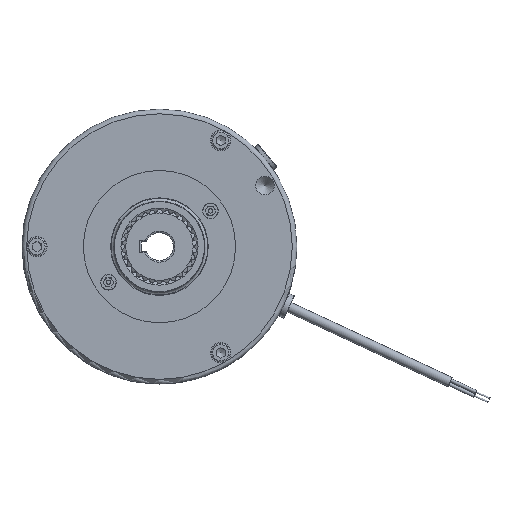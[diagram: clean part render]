
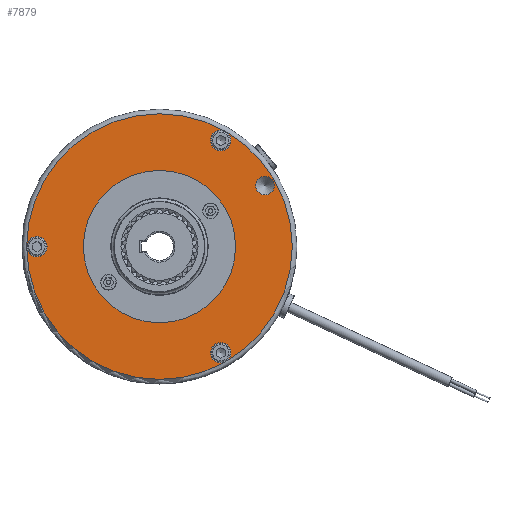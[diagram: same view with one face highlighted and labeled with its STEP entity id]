
A CAD part, left-side view. The second image highlights one B-rep face of the part: STEP entity #7879.
In plain terms, the highlighted planar face has unit normal (-1, 0, 0).
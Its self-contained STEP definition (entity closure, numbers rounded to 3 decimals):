
#150=PLANE('',#8464);
#213=FACE_BOUND('',#801,.T.);
#214=FACE_BOUND('',#802,.T.);
#215=FACE_BOUND('',#803,.T.);
#216=FACE_BOUND('',#804,.T.);
#217=FACE_BOUND('',#805,.T.);
#350=FACE_OUTER_BOUND('',#800,.T.);
#800=EDGE_LOOP('',(#5213,#5214));
#801=EDGE_LOOP('',(#5215,#5216));
#802=EDGE_LOOP('',(#5217,#5218));
#803=EDGE_LOOP('',(#5219,#5220));
#804=EDGE_LOOP('',(#5221,#5222));
#805=EDGE_LOOP('',(#5223,#5224));
#1515=CIRCLE('',#8417,5.);
#1516=CIRCLE('',#8418,5.);
#1545=CIRCLE('',#8461,71.501);
#1546=CIRCLE('',#8462,71.501);
#1547=CIRCLE('',#8465,41.);
#1548=CIRCLE('',#8466,41.);
#1549=CIRCLE('',#8467,5.5);
#1550=CIRCLE('',#8468,5.5);
#1551=CIRCLE('',#8469,5.5);
#1552=CIRCLE('',#8470,5.5);
#1553=CIRCLE('',#8471,5.5);
#1554=CIRCLE('',#8472,5.5);
#2868=VERTEX_POINT('',#12126);
#2869=VERTEX_POINT('',#12127);
#2890=VERTEX_POINT('',#12198);
#2891=VERTEX_POINT('',#12200);
#2892=VERTEX_POINT('',#12205);
#2893=VERTEX_POINT('',#12206);
#2894=VERTEX_POINT('',#12209);
#2895=VERTEX_POINT('',#12210);
#2896=VERTEX_POINT('',#12213);
#2897=VERTEX_POINT('',#12214);
#2898=VERTEX_POINT('',#12217);
#2899=VERTEX_POINT('',#12218);
#3739=EDGE_CURVE('',#2868,#2869,#1515,.T.);
#3740=EDGE_CURVE('',#2869,#2868,#1516,.T.);
#3776=EDGE_CURVE('',#2890,#2891,#1545,.T.);
#3777=EDGE_CURVE('',#2891,#2890,#1546,.T.);
#3778=EDGE_CURVE('',#2892,#2893,#1547,.T.);
#3779=EDGE_CURVE('',#2893,#2892,#1548,.T.);
#3780=EDGE_CURVE('',#2894,#2895,#1549,.T.);
#3781=EDGE_CURVE('',#2895,#2894,#1550,.T.);
#3782=EDGE_CURVE('',#2896,#2897,#1551,.T.);
#3783=EDGE_CURVE('',#2897,#2896,#1552,.T.);
#3784=EDGE_CURVE('',#2898,#2899,#1553,.T.);
#3785=EDGE_CURVE('',#2899,#2898,#1554,.T.);
#5213=ORIENTED_EDGE('',*,*,#3777,.F.);
#5214=ORIENTED_EDGE('',*,*,#3776,.F.);
#5215=ORIENTED_EDGE('',*,*,#3739,.T.);
#5216=ORIENTED_EDGE('',*,*,#3740,.T.);
#5217=ORIENTED_EDGE('',*,*,#3778,.T.);
#5218=ORIENTED_EDGE('',*,*,#3779,.T.);
#5219=ORIENTED_EDGE('',*,*,#3780,.T.);
#5220=ORIENTED_EDGE('',*,*,#3781,.T.);
#5221=ORIENTED_EDGE('',*,*,#3782,.T.);
#5222=ORIENTED_EDGE('',*,*,#3783,.T.);
#5223=ORIENTED_EDGE('',*,*,#3784,.T.);
#5224=ORIENTED_EDGE('',*,*,#3785,.T.);
#7879=ADVANCED_FACE('',(#350,#213,#214,#215,#216,#217),#150,.T.);
#8417=AXIS2_PLACEMENT_3D('',#12128,#9618,#9619);
#8418=AXIS2_PLACEMENT_3D('',#12129,#9620,#9621);
#8461=AXIS2_PLACEMENT_3D('',#12201,#9713,#9714);
#8462=AXIS2_PLACEMENT_3D('',#12202,#9715,#9716);
#8464=AXIS2_PLACEMENT_3D('',#12204,#9719,#9720);
#8465=AXIS2_PLACEMENT_3D('',#12207,#9721,#9722);
#8466=AXIS2_PLACEMENT_3D('',#12208,#9723,#9724);
#8467=AXIS2_PLACEMENT_3D('',#12211,#9725,#9726);
#8468=AXIS2_PLACEMENT_3D('',#12212,#9727,#9728);
#8469=AXIS2_PLACEMENT_3D('',#12215,#9729,#9730);
#8470=AXIS2_PLACEMENT_3D('',#12216,#9731,#9732);
#8471=AXIS2_PLACEMENT_3D('',#12219,#9733,#9734);
#8472=AXIS2_PLACEMENT_3D('',#12220,#9735,#9736);
#9618=DIRECTION('center_axis',(1.,0.,0.));
#9619=DIRECTION('ref_axis',(0.,0.,1.));
#9620=DIRECTION('center_axis',(1.,0.,0.));
#9621=DIRECTION('ref_axis',(0.,0.,1.));
#9713=DIRECTION('center_axis',(1.,0.,0.));
#9714=DIRECTION('ref_axis',(0.,-1.,0.));
#9715=DIRECTION('center_axis',(1.,0.,0.));
#9716=DIRECTION('ref_axis',(0.,-1.,0.));
#9719=DIRECTION('center_axis',(-1.,0.,0.));
#9720=DIRECTION('ref_axis',(0.,0.,1.));
#9721=DIRECTION('center_axis',(1.,0.,0.));
#9722=DIRECTION('ref_axis',(0.,1.,0.));
#9723=DIRECTION('center_axis',(1.,0.,0.));
#9724=DIRECTION('ref_axis',(0.,1.,0.));
#9725=DIRECTION('center_axis',(1.,0.,0.));
#9726=DIRECTION('ref_axis',(0.,0.,1.));
#9727=DIRECTION('center_axis',(1.,0.,0.));
#9728=DIRECTION('ref_axis',(0.,0.,1.));
#9729=DIRECTION('center_axis',(1.,0.,0.));
#9730=DIRECTION('ref_axis',(0.,0.,1.));
#9731=DIRECTION('center_axis',(1.,0.,0.));
#9732=DIRECTION('ref_axis',(0.,0.,1.));
#9733=DIRECTION('center_axis',(1.,0.,0.));
#9734=DIRECTION('ref_axis',(0.,0.,1.));
#9735=DIRECTION('center_axis',(1.,0.,0.));
#9736=DIRECTION('ref_axis',(0.,0.,1.));
#12126=CARTESIAN_POINT('',(-56.9,-56.811,37.8));
#12127=CARTESIAN_POINT('',(-56.9,-56.811,27.8));
#12128=CARTESIAN_POINT('Origin',(-56.9,-56.811,32.8));
#12129=CARTESIAN_POINT('Origin',(-56.9,-56.811,32.8));
#12198=CARTESIAN_POINT('',(-56.9,0.,71.501));
#12200=CARTESIAN_POINT('',(-56.9,71.501,0.));
#12201=CARTESIAN_POINT('Origin',(-56.9,0.,0.));
#12202=CARTESIAN_POINT('Origin',(-56.9,0.,0.));
#12204=CARTESIAN_POINT('Origin',(-56.9,57.5,0.));
#12205=CARTESIAN_POINT('',(-56.9,41.,0.));
#12206=CARTESIAN_POINT('',(-56.9,-41.,0.));
#12207=CARTESIAN_POINT('Origin',(-56.9,0.,0.));
#12208=CARTESIAN_POINT('Origin',(-56.9,0.,0.));
#12209=CARTESIAN_POINT('',(-56.9,66.,5.5));
#12210=CARTESIAN_POINT('',(-56.9,66.,-5.5));
#12211=CARTESIAN_POINT('Origin',(-56.9,66.,0.));
#12212=CARTESIAN_POINT('Origin',(-56.9,66.,0.));
#12213=CARTESIAN_POINT('',(-56.9,-33.,-51.658));
#12214=CARTESIAN_POINT('',(-56.9,-33.,-62.658));
#12215=CARTESIAN_POINT('Origin',(-56.9,-33.,-57.158));
#12216=CARTESIAN_POINT('Origin',(-56.9,-33.,-57.158));
#12217=CARTESIAN_POINT('',(-56.9,-33.,62.658));
#12218=CARTESIAN_POINT('',(-56.9,-33.,51.658));
#12219=CARTESIAN_POINT('Origin',(-56.9,-33.,57.158));
#12220=CARTESIAN_POINT('Origin',(-56.9,-33.,57.158));
